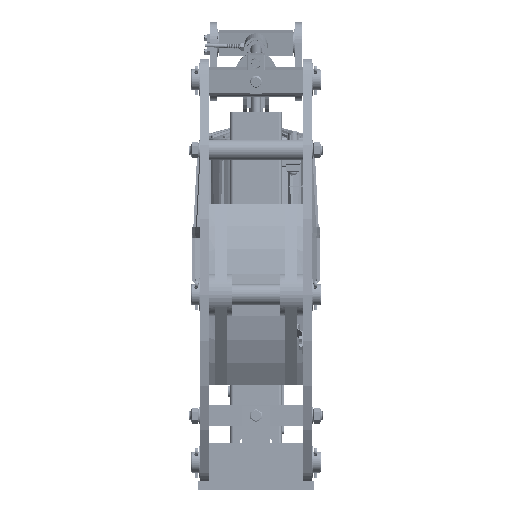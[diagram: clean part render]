
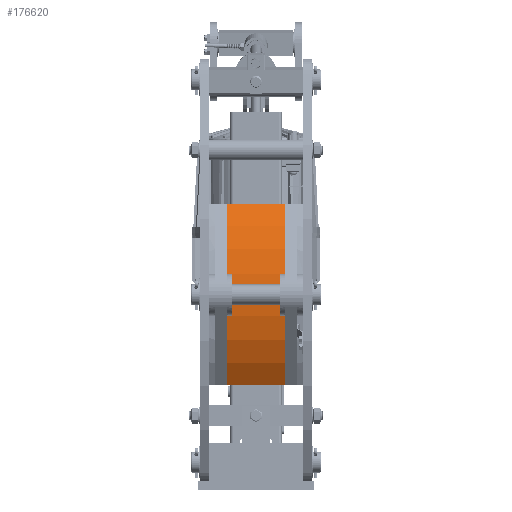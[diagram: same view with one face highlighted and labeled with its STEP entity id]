
A CAD part, front view. The second image highlights one B-rep face of the part: STEP entity #176620.
In plain terms, the highlighted cylindrical face has radius 339 mm (diameter 678 mm), a partial arc.
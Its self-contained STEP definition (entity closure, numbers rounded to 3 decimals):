
#176475=DIRECTION('',(1.,0.,0.));
#176476=VECTOR('',#176475,10.);
#176477=CARTESIAN_POINT('',(-72.5,104.002,375.));
#176478=LINE('',#176477,#176476);
#176482=CARTESIAN_POINT('',(-62.5,440.002,420.));
#176483=DIRECTION('',(1.,0.,0.));
#176484=DIRECTION('',(0.,-0.991,-0.133));
#176485=AXIS2_PLACEMENT_3D('',#176482,#176483,#176484);
#176490=DIRECTION('',(-1.,0.,0.));
#176491=VECTOR('',#176490,125.);
#176492=CARTESIAN_POINT('',(-62.5,162.31,225.558));
#176493=LINE('',#176492,#176491);
#176497=CARTESIAN_POINT('',(-187.5,440.002,420.));
#176498=DIRECTION('',(-1.,0.,0.));
#176499=DIRECTION('',(0.,-0.819,-0.574));
#176500=AXIS2_PLACEMENT_3D('',#176497,#176498,#176499);
#176505=DIRECTION('',(1.,0.,0.));
#176506=VECTOR('',#176505,10.);
#176507=CARTESIAN_POINT('',(-187.5,104.002,375.));
#176508=LINE('',#176507,#176506);
#176512=CARTESIAN_POINT('',(-177.5,440.002,420.));
#176513=DIRECTION('',(-1.,0.,0.));
#176514=DIRECTION('',(0.,-0.991,-0.133));
#176515=AXIS2_PLACEMENT_3D('',#176512,#176513,#176514);
#176520=DIRECTION('',(-1.,0.,0.));
#176521=VECTOR('',#176520,10.);
#176522=CARTESIAN_POINT('',(-177.5,104.002,465.001));
#176523=LINE('',#176522,#176521);
#176527=CARTESIAN_POINT('',(-187.5,440.002,420.));
#176528=DIRECTION('',(-1.,0.,0.));
#176529=DIRECTION('',(0.,-0.991,0.133));
#176530=AXIS2_PLACEMENT_3D('',#176527,#176528,#176529);
#176535=DIRECTION('',(1.,0.,0.));
#176536=VECTOR('',#176535,125.);
#176537=CARTESIAN_POINT('',(-187.5,162.31,614.443));
#176538=LINE('',#176537,#176536);
#176542=CARTESIAN_POINT('',(-62.5,440.002,420.));
#176543=DIRECTION('',(1.,0.,0.));
#176544=DIRECTION('',(0.,-0.819,0.574));
#176545=AXIS2_PLACEMENT_3D('',#176542,#176543,#176544);
#176550=DIRECTION('',(-1.,0.,0.));
#176551=VECTOR('',#176550,10.);
#176552=CARTESIAN_POINT('',(-62.5,104.002,465.001));
#176553=LINE('',#176552,#176551);
#176557=CARTESIAN_POINT('',(-72.5,440.002,420.));
#176558=DIRECTION('',(1.,0.,0.));
#176559=DIRECTION('',(0.,-0.991,0.133));
#176560=AXIS2_PLACEMENT_3D('',#176557,#176558,#176559);
#176565=CARTESIAN_POINT('',(-72.5,104.002,375.));
#176566=CARTESIAN_POINT('',(-62.5,104.002,375.));
#176567=VERTEX_POINT('',#176565);
#176568=VERTEX_POINT('',#176566);
#176569=CARTESIAN_POINT('',(-62.5,162.31,225.558));
#176570=VERTEX_POINT('',#176569);
#176571=CARTESIAN_POINT('',(-187.5,162.31,225.558));
#176572=VERTEX_POINT('',#176571);
#176573=CARTESIAN_POINT('',(-187.5,104.002,375.));
#176574=VERTEX_POINT('',#176573);
#176575=CARTESIAN_POINT('',(-177.5,104.002,375.));
#176576=VERTEX_POINT('',#176575);
#176577=CARTESIAN_POINT('',(-177.5,104.002,465.001));
#176578=VERTEX_POINT('',#176577);
#176579=CARTESIAN_POINT('',(-187.5,104.002,465.001));
#176580=VERTEX_POINT('',#176579);
#176581=CARTESIAN_POINT('',(-187.5,162.31,614.443));
#176582=VERTEX_POINT('',#176581);
#176583=CARTESIAN_POINT('',(-62.5,162.31,614.443));
#176584=VERTEX_POINT('',#176583);
#176585=CARTESIAN_POINT('',(-62.5,104.002,465.001));
#176586=VERTEX_POINT('',#176585);
#176587=CARTESIAN_POINT('',(-72.5,104.002,465.001));
#176588=VERTEX_POINT('',#176587);
#176589=CARTESIAN_POINT('',(-125.,440.002,420.));
#176590=DIRECTION('',(-1.,0.,0.));
#176591=DIRECTION('',(0.,0.,-1.));
#176592=AXIS2_PLACEMENT_3D('',#176589,#176590,#176591);
#176593=CYLINDRICAL_SURFACE('',#176592,339.);
#176595=ORIENTED_EDGE('',*,*,#176594,.T.);
#176597=ORIENTED_EDGE('',*,*,#176596,.T.);
#176599=ORIENTED_EDGE('',*,*,#176598,.T.);
#176601=ORIENTED_EDGE('',*,*,#176600,.T.);
#176603=ORIENTED_EDGE('',*,*,#176602,.T.);
#176605=ORIENTED_EDGE('',*,*,#176604,.T.);
#176607=ORIENTED_EDGE('',*,*,#176606,.T.);
#176609=ORIENTED_EDGE('',*,*,#176608,.T.);
#176611=ORIENTED_EDGE('',*,*,#176610,.T.);
#176613=ORIENTED_EDGE('',*,*,#176612,.T.);
#176615=ORIENTED_EDGE('',*,*,#176614,.T.);
#176617=ORIENTED_EDGE('',*,*,#176616,.T.);
#176618=EDGE_LOOP('',(#176595,#176597,#176599,#176601,#176603,#176605,#176607,
#176609,#176611,#176613,#176615,#176617));
#176619=FACE_OUTER_BOUND('',#176618,.F.);
#176620=ADVANCED_FACE('',(#176619),#176593,.T.);
#176486=CIRCLE('',#176485,339.);
#176501=CIRCLE('',#176500,339.);
#176516=CIRCLE('',#176515,339.);
#176531=CIRCLE('',#176530,339.);
#176546=CIRCLE('',#176545,339.);
#176561=CIRCLE('',#176560,339.);
#176594=EDGE_CURVE('',#176567,#176568,#176478,.T.);
#176596=EDGE_CURVE('',#176568,#176570,#176486,.T.);
#176598=EDGE_CURVE('',#176570,#176572,#176493,.T.);
#176600=EDGE_CURVE('',#176572,#176574,#176501,.T.);
#176602=EDGE_CURVE('',#176574,#176576,#176508,.T.);
#176604=EDGE_CURVE('',#176576,#176578,#176516,.T.);
#176606=EDGE_CURVE('',#176578,#176580,#176523,.T.);
#176608=EDGE_CURVE('',#176580,#176582,#176531,.T.);
#176610=EDGE_CURVE('',#176582,#176584,#176538,.T.);
#176612=EDGE_CURVE('',#176584,#176586,#176546,.T.);
#176614=EDGE_CURVE('',#176586,#176588,#176553,.T.);
#176616=EDGE_CURVE('',#176588,#176567,#176561,.T.);
